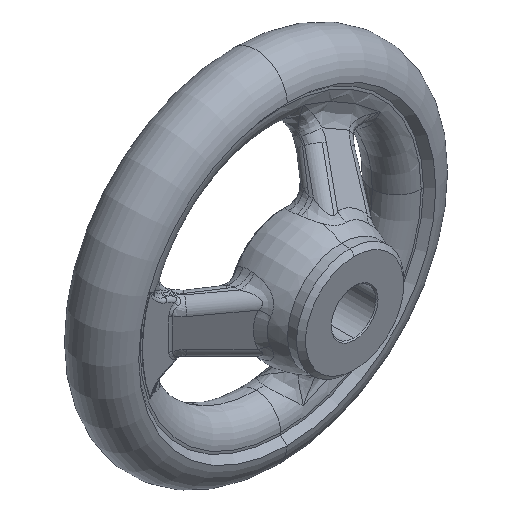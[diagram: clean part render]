
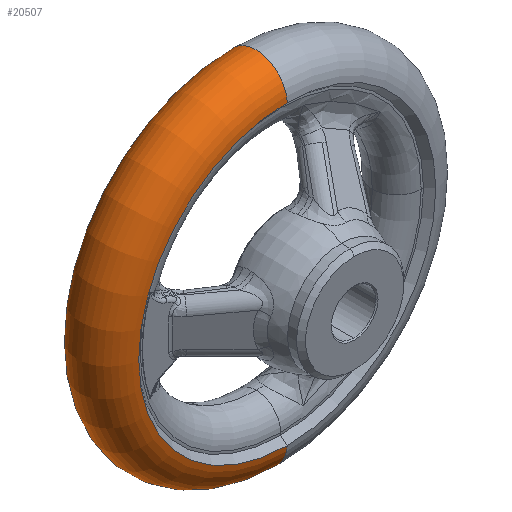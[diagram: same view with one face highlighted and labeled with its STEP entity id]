
A CAD part, isometric view. The second image highlights one B-rep face of the part: STEP entity #20507.
In plain terms, the highlighted toroidal (fillet/blend) face has major radius 33 mm and minor radius 7 mm.
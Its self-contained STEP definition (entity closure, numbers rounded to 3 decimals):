
#642 = ORIENTED_EDGE ( 'NONE', *, *, #22555, .F. ) ;
#676 = EDGE_CURVE ( 'NONE', #22099, #22089, #2029, .T. ) ;
#2009 = AXIS2_PLACEMENT_3D ( 'NONE', #2025, #2024, #2023 ) ;
#2023 = DIRECTION ( 'NONE',  ( 0., 0., -1. ) ) ;
#2024 = DIRECTION ( 'NONE',  ( 0., -1., 0. ) ) ;
#2025 = CARTESIAN_POINT ( 'NONE',  ( 0., 29., 0. ) ) ;
#2029 = CIRCLE ( 'NONE', #2009, 34. ) ;
#11397 = ORIENTED_EDGE ( 'NONE', *, *, #22596, .F. ) ;
#13465 = CARTESIAN_POINT ( 'NONE',  ( 0., 15.076, 33.25 ) ) ;
#15082 = AXIS2_PLACEMENT_3D ( 'NONE', #15283, #15335, #15334 ) ;
#15282 = TOROIDAL_SURFACE ( 'NONE', #15082, 33., 7. ) ;
#15283 = CARTESIAN_POINT ( 'NONE',  ( 0., 22.072, 0. ) ) ;
#15331 = FACE_OUTER_BOUND ( 'NONE', #20506, .T. ) ;
#15334 = DIRECTION ( 'NONE',  ( 0., 0., -1. ) ) ;
#15335 = DIRECTION ( 'NONE',  ( 0., -1., 0. ) ) ;
#15385 = VERTEX_POINT ( 'NONE', #13465 ) ;
#18121 = CARTESIAN_POINT ( 'NONE',  ( 0., 29., -34. ) ) ;
#18173 = CARTESIAN_POINT ( 'NONE',  ( 0., 29., 34. ) ) ;
#18287 = CIRCLE ( 'NONE', #18370, 7. ) ;
#18359 = DIRECTION ( 'NONE',  ( 0., 0., 1. ) ) ;
#18360 = DIRECTION ( 'NONE',  ( -1., 0., 0. ) ) ;
#18370 = AXIS2_PLACEMENT_3D ( 'NONE', #18371, #18360, #18359 ) ;
#18371 = CARTESIAN_POINT ( 'NONE',  ( 0., 22.072, -33. ) ) ;
#18421 = DIRECTION ( 'NONE',  ( 0., 0., -1. ) ) ;
#18422 = DIRECTION ( 'NONE',  ( 0., -1., 0. ) ) ;
#18427 = CARTESIAN_POINT ( 'NONE',  ( 0., 15.076, 0. ) ) ;
#18428 = AXIS2_PLACEMENT_3D ( 'NONE', #18427, #18422, #18421 ) ;
#18429 = DIRECTION ( 'NONE',  ( 0., 0., -1. ) ) ;
#18430 = DIRECTION ( 'NONE',  ( 1., 0., 0. ) ) ;
#18431 = CARTESIAN_POINT ( 'NONE',  ( 0., 22.072, 33. ) ) ;
#18432 = AXIS2_PLACEMENT_3D ( 'NONE', #18431, #18430, #18429 ) ;
#18435 = CIRCLE ( 'NONE', #18432, 7. ) ;
#18442 = CIRCLE ( 'NONE', #18428, 33.25 ) ;
#18471 = CARTESIAN_POINT ( 'NONE',  ( 0., 15.076, -33.25 ) ) ;
#19612 = ORIENTED_EDGE ( 'NONE', *, *, #22496, .T. ) ;
#19615 = ORIENTED_EDGE ( 'NONE', *, *, #676, .T. ) ;
#20506 = EDGE_LOOP ( 'NONE', ( #642, #19615, #19612, #11397 ) ) ;
#20507 = ADVANCED_FACE ( 'NONE', ( #15331 ), #15282, .T. ) ;
#22089 = VERTEX_POINT ( 'NONE', #18121 ) ;
#22099 = VERTEX_POINT ( 'NONE', #18173 ) ;
#22496 = EDGE_CURVE ( 'NONE', #22089, #22612, #18287, .T. ) ;
#22555 = EDGE_CURVE ( 'NONE', #22099, #15385, #18435, .T. ) ;
#22596 = EDGE_CURVE ( 'NONE', #15385, #22612, #18442, .T. ) ;
#22612 = VERTEX_POINT ( 'NONE', #18471 ) ;
